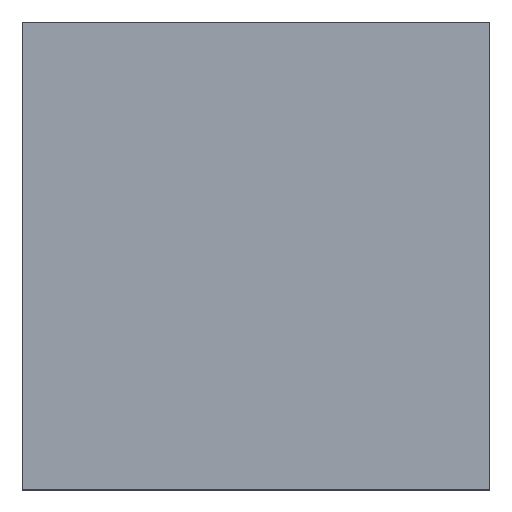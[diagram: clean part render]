
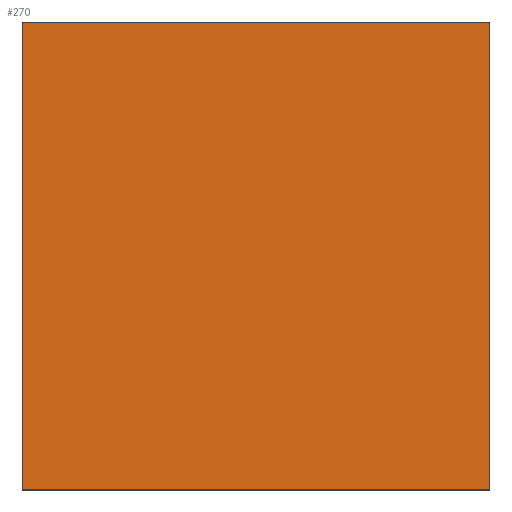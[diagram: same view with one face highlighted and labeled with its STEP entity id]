
A CAD part, top view. The second image highlights one B-rep face of the part: STEP entity #270.
In plain terms, the highlighted planar face has unit normal (0, 0, 1).
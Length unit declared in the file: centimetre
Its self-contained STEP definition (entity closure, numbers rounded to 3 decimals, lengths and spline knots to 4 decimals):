
#39 = EDGE_LOOP ( 'NONE', ( #378, #395, #41, #92 ) ) ;
#41 = ORIENTED_EDGE ( 'NONE', *, *, #469, .T. ) ;
#75 = LINE ( 'NONE', #180, #360 ) ;
#77 = VERTEX_POINT ( 'NONE', #332 ) ;
#79 = VERTEX_POINT ( 'NONE', #85 ) ;
#82 = AXIS2_PLACEMENT_3D ( 'NONE', #138, #427, #385 ) ;
#85 = CARTESIAN_POINT ( 'NONE',  ( 0., 1000., 1000. ) ) ;
#92 = ORIENTED_EDGE ( 'NONE', *, *, #126, .T. ) ;
#126 = EDGE_CURVE ( 'NONE', #263, #79, #271, .T. ) ;
#136 = CARTESIAN_POINT ( 'NONE',  ( 0., 1000., 1000. ) ) ;
#138 = CARTESIAN_POINT ( 'NONE',  ( 0., 0., 1000. ) ) ;
#150 = VECTOR ( 'NONE', #281, 100. ) ;
#175 = CARTESIAN_POINT ( 'NONE',  ( 1000., 1000., 1000. ) ) ;
#178 = PLANE ( 'NONE',  #82 ) ;
#180 = CARTESIAN_POINT ( 'NONE',  ( 1000., 1000., 1000. ) ) ;
#182 = VERTEX_POINT ( 'NONE', #273 ) ;
#220 = DIRECTION ( 'NONE',  ( 0., 1., 0. ) ) ;
#227 = VECTOR ( 'NONE', #419, 100. ) ;
#235 = EDGE_CURVE ( 'NONE', #182, #77, #459, .T. ) ;
#263 = VERTEX_POINT ( 'NONE', #175 ) ;
#270 = ADVANCED_FACE ( 'NONE', ( #354 ), #178, .T. ) ;
#271 = LINE ( 'NONE', #446, #449 ) ;
#273 = CARTESIAN_POINT ( 'NONE',  ( 0., 0., 1000. ) ) ;
#278 = CARTESIAN_POINT ( 'NONE',  ( 0., 0., 1000. ) ) ;
#281 = DIRECTION ( 'NONE',  ( 0., -1., 0. ) ) ;
#330 = EDGE_CURVE ( 'NONE', #79, #182, #464, .T. ) ;
#332 = CARTESIAN_POINT ( 'NONE',  ( 1000., 0., 1000. ) ) ;
#354 = FACE_OUTER_BOUND ( 'NONE', #39, .T. ) ;
#360 = VECTOR ( 'NONE', #220, 100. ) ;
#378 = ORIENTED_EDGE ( 'NONE', *, *, #330, .T. ) ;
#383 = DIRECTION ( 'NONE',  ( -1., 0., 0. ) ) ;
#385 = DIRECTION ( 'NONE',  ( 1., 0., 0. ) ) ;
#395 = ORIENTED_EDGE ( 'NONE', *, *, #235, .T. ) ;
#419 = DIRECTION ( 'NONE',  ( 1., 0., 0. ) ) ;
#427 = DIRECTION ( 'NONE',  ( 0., 0., 1. ) ) ;
#446 = CARTESIAN_POINT ( 'NONE',  ( 0., 1000., 1000. ) ) ;
#449 = VECTOR ( 'NONE', #383, 100. ) ;
#459 = LINE ( 'NONE', #278, #227 ) ;
#464 = LINE ( 'NONE', #136, #150 ) ;
#469 = EDGE_CURVE ( 'NONE', #77, #263, #75, .T. ) ;
